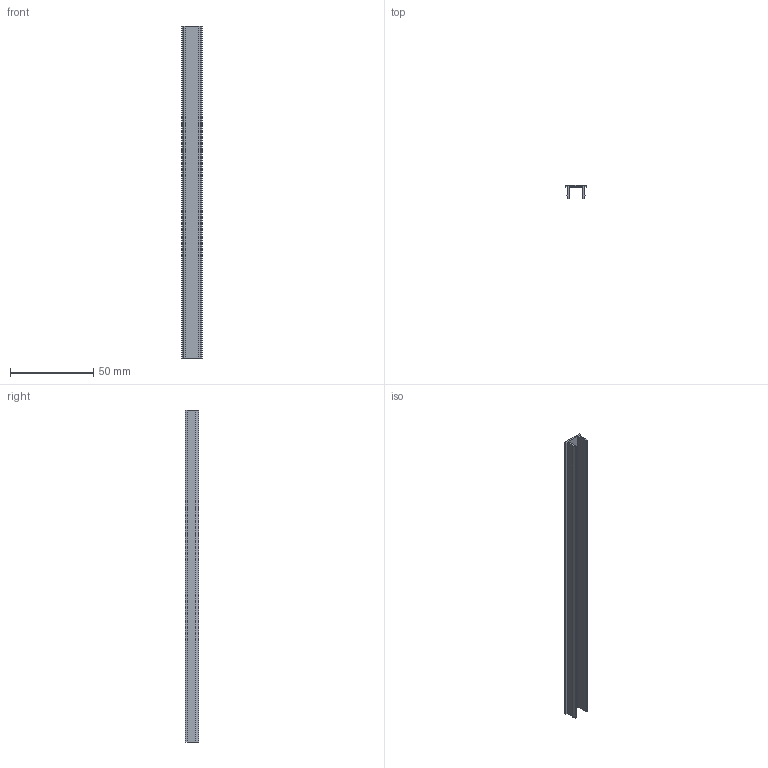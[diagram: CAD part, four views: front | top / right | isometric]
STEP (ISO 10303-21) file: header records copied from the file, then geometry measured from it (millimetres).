
FILE_DESCRIPTION((''),'2;1');
FILE_NAME('E:\catalogue and flyer\Profile catalogue 2015\Accessories ACC info\Accessories ACC step file 31Mar16\AC-BS2000-10.stp','2016-04-07T15:23:43',('h029'),(''),'Autodesk Inventor 11','Autodesk Inventor 11','');
FILE_SCHEMA(('AUTOMOTIVE_DESIGN { 1 0 10303 214 1 1 1 1 }'));
Length unit declared in the file: millimetre
Products named in the file (1): AC-BS2000-10
Bounding box: 12.2 x 8 x 200 mm (x, y, z)
Volume: 5403.5 mm3; surface area: 11067.3 mm2
Topology: 1 solids, 1 shells, 18 faces, 48 edges, 32 vertices
Faces by surface type: plane 18
Entity records: 575 total; most frequent: CARTESIAN_POINT 99, ORIENTED_EDGE 96, DIRECTION 86, VECTOR 48, LINE 48, EDGE_CURVE 48, VERTEX_POINT 32, AXIS2_PLACEMENT_3D 19
